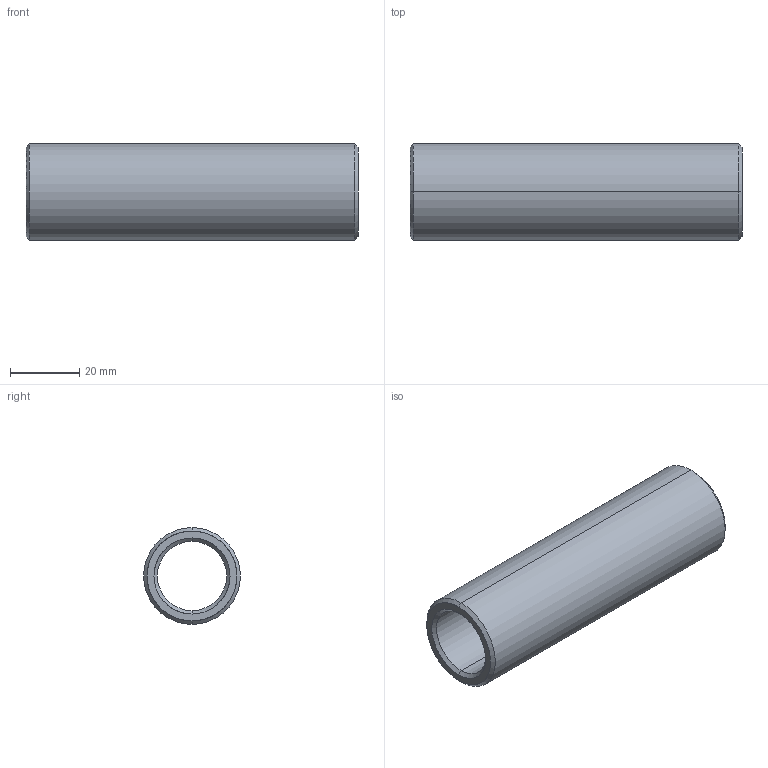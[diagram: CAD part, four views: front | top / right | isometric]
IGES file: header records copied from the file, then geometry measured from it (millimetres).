
Start section: START RECORD GO HERE.
Global section: file name: 352-20X96.igs; native system: DASSAULT SYSTEMES CATIA V5 R20 - www.3ds.com; preprocessor: CATIA Version 5 Release 20 ; author: Utente; organization: NB04-ASUS; date: 20210415.081430; units: millimetre
Bounding box: 96 x 28 x 28 mm (x, y, z)
Surface area: 14912 mm2 (no closed solid volume)
Topology: 0 solids, 0 shells, 14 faces, 88 edges, 88 vertices
Faces by surface type: revolution 12, plane 2
